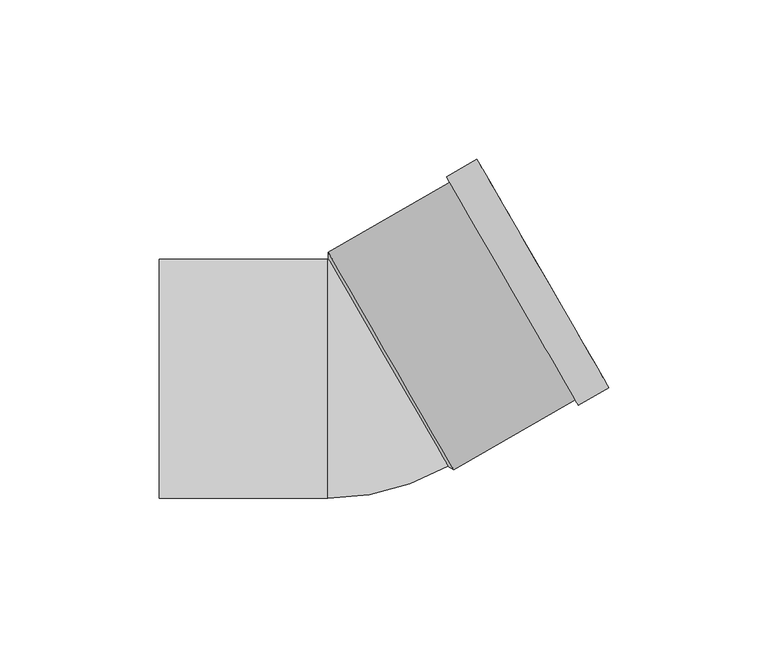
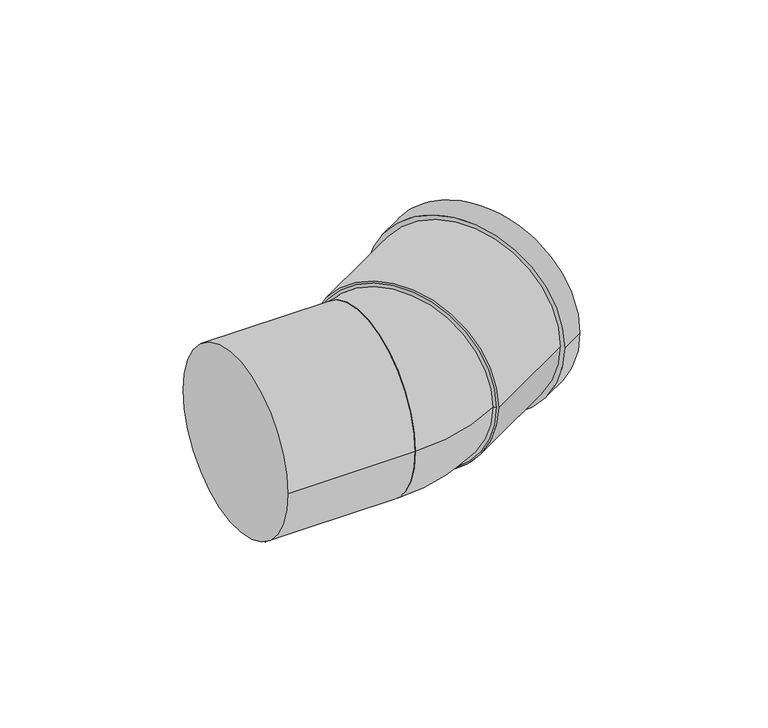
"""IFC4 building model written with IfcOpenShell, lengths in millimetres: pipe fitting geometry, Superdrain HT bend : Superdrain HT Bend."""

from ifc_helpers import new_model, si_unit, point, frame, origin, origin_2d, place, context, project, spatial, polyline, circle_curve, ellipse_curve, trimmed, segment, composite_curve, outline, extrude, source, transform, mapped, element, save
from ifc_brep_helpers import plane_surface, revolved_surface, advanced_brep


def pipe_fitting_1b43bb9a(model_context):
    return source(origin(), model_context, "Body", "SolidModel", [
        advanced_brep(
        [(27.5834591, -27.3759526, 0.0), (-9.9165409, 37.5759526, 0.0), (-10.2, -37.5, 0.0), (-10.2, 37.5, 0.0)],
        [
            (0, 1, circle_curve(frame((8.8334591, 5.1, 0.0), z_axis=(0.8660254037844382, 0.500000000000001, 0.0), x_axis=(-0.500000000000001, 0.8660254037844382, 0.0)), 37.5)),
            (1, 0, circle_curve(frame((8.8334591, 5.1, 0.0), z_axis=(0.8660254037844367, 0.5000000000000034, 0.0), x_axis=(-0.5000000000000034, 0.8660254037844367, 0.0)), 37.5)),
            (2, 3, circle_curve(frame((-10.2, 0.0, 0.0), z_axis=(-1.0, 0.0, 0.0), x_axis=(0.0, 1.0, 0.0)), 37.5)),
            (3, 2, circle_curve(frame((-10.2, 0.0, 0.0), z_axis=(-1.0, 0.0, 0.0), x_axis=(0.0, 1.0, 0.0)), 37.5)),
            (3, 1, circle_curve(frame((-10.2, 38.0669182, 0.0), z_axis=(0.0, 0.0, 1.0), x_axis=(1.0, 0.0, 0.0)), 0.5669182)),
            (0, 2, circle_curve(frame((-10.2, 38.0669182, 0.0), z_axis=(0.0, 0.0, -1.0), x_axis=(1.0, 0.0, 0.0)), 75.5669182)),
        ],
        [
            plane_surface(frame((8.8334591, 5.1, 0.0), z_axis=(0.866025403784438, 0.5000000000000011, 0.0), x_axis=(0.0, 0.0, -1.0))),
            plane_surface(frame((-10.2, 0.0, 0.0), z_axis=(-1.0, 0.0, 0.0), x_axis=(0.0, 0.0, -1.0))),
            revolved_surface(trimmed(ellipse_curve(frame((27.8669182, 38.0669182, 0.0), z_axis=(0.0, -1.0, 0.0), x_axis=(-1.0, 0.0, 0.0)), 37.5, 37.5), [point((-9.6330818, 38.0669182, 0.0))], [point((65.3669182, 38.0669182, 0.0))], True, "CARTESIAN"), (-10.2, 38.0669182, 0.0), (0.0, 0.0, 1.0)),
            revolved_surface(trimmed(ellipse_curve(frame((27.8669182, 38.0669182, 0.0), z_axis=(0.0, -1.0, 0.0), x_axis=(-1.0, 0.0, 0.0)), 37.5, 37.5), [point((65.3669182, 38.0669182, 0.0))], [point((-9.6330818, 38.0669182, 0.0))], True, "CARTESIAN"), (-10.2, 38.0669182, 0.0), (0.0, 0.0, 1.0)),
        ],
        [
            (0, [[1, 2]]),
            (1, [[3, 4]]),
            (2, [[-4, 5, -1, 6]]),
            (3, [[-3, -6, -2, -5]]),
        ],
    ),
        extrude(outline(composite_curve([segment(trimmed(circle_curve(origin_2d(), 39.375), [point((0.0, 39.375))], [point((0.0, -39.375))], False, "CARTESIAN"), True, "CONTINUOUS"), segment(trimmed(circle_curve(origin_2d(), 39.375), [point((0.0, -39.375))], [point((0.0, 39.375))], False, "CARTESIAN"), True, "CONTINUOUS")], self_intersect=False), holes=[composite_curve([segment(trimmed(circle_curve(origin_2d(), 37.5), [point((0.0, 37.5))], [point((0.0, -37.5))], True, "CARTESIAN"), True, "CONTINUOUS"), segment(trimmed(circle_curve(origin_2d(), 37.5), [point((0.0, -37.5))], [point((0.0, 37.5))], True, "CARTESIAN"), True, "CONTINUOUS")], self_intersect=False)]), frame((9.6994845, 5.6, 0.0), z_axis=(0.8660254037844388, 0.4999999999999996, 0.0), x_axis=(0.0, 0.0, 1.0)), (0.0, 0.0, 1.0), 55.0),
        extrude(outline(composite_curve([segment(trimmed(circle_curve(origin_2d(), 41.34375), [point((0.0, -41.34375))], [point((0.0, 41.34375))], False, "CARTESIAN"), True, "CONTINUOUS"), segment(trimmed(circle_curve(origin_2d(), 41.34375), [point((0.0, 41.34375))], [point((0.0, -41.34375))], False, "CARTESIAN"), True, "CONTINUOUS")], self_intersect=False), holes=[composite_curve([segment(trimmed(circle_curve(origin_2d(), 37.5), [point((0.0, -37.5))], [point((0.0, 37.5))], True, "CARTESIAN"), True, "CONTINUOUS"), segment(trimmed(circle_curve(origin_2d(), 37.5), [point((0.0, 37.5))], [point((0.0, -37.5))], True, "CARTESIAN"), True, "CONTINUOUS")], self_intersect=False)]), frame((47.8046023, 27.6, 0.0), z_axis=(0.8660254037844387, 0.49999999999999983, 0.0), x_axis=(0.0, 0.0, 1.0)), (0.0, 0.0, 1.0), 11.0),
        advanced_brep(
        [(29.3869845, -28.4997503, 0.0), (-9.9880155, 39.6997503, 0.0), (27.5834591, -27.3759526, 0.0), (-9.9165409, 37.5759526, 0.0)],
        [
            (0, 1, circle_curve(frame((9.6994845, 5.6, 0.0), z_axis=(0.8660254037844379, 0.5000000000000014, 0.0), x_axis=(0.5000000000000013, -0.8660254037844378, 0.0)), 39.375)),
            (1, 0, circle_curve(frame((9.6994845, 5.6, 0.0), z_axis=(0.8660254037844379, 0.5000000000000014, 0.0), x_axis=(-0.5000000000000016, 0.8660254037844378, 0.0)), 39.375)),
            (2, 3, circle_curve(frame((8.8334591, 5.1, 0.0), z_axis=(-0.8660254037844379, -0.5000000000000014, 0.0), x_axis=(-0.5000000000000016, 0.8660254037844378, 0.0)), 37.5)),
            (3, 2, circle_curve(frame((8.8334591, 5.1, 0.0), z_axis=(-0.8660254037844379, -0.5000000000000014, 0.0), x_axis=(0.5000000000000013, -0.8660254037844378, 0.0)), 37.5)),
            (3, 1),
            (0, 2),
        ],
        [
            plane_surface(frame((9.6994845, 5.6, 0.0), z_axis=(0.8660254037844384, 0.5000000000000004, 0.0), x_axis=(0.0, 0.0, -1.0))),
            plane_surface(frame((8.8334591, 5.1, 0.0), z_axis=(-0.8660254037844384, -0.5000000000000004, 0.0), x_axis=(0.0, 0.0, -1.0))),
            revolved_surface(polyline([(-9.916540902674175, 37.5759526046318, 0.0), (-9.9880155, 39.6997503, 0.0)]), (-8.487049, -4.9, 0.0), (0.8660254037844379, 0.5000000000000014, 0.0)),
            revolved_surface(polyline([(27.583459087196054, -27.375952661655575, 0.0), (29.386984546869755, -28.499750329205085, 0.0)]), (-8.487049, -4.9, 0.0), (0.8660254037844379, 0.5000000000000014, 0.0)),
        ],
        [
            (0, [[1, 2]]),
            (1, [[3, 4]]),
            (2, [[-4, 5, -1, 6]]),
            (3, [[-3, -6, -2, -5]]),
        ],
    ),
        extrude(outline(composite_curve([segment(trimmed(circle_curve(origin_2d(), 37.5), [point((-37.5, 0.0))], [point((37.5, 0.0))], False, "CARTESIAN"), True, "CONTINUOUS"), segment(trimmed(circle_curve(origin_2d(), 37.5), [point((37.5, 0.0))], [point((-37.5, 0.0))], False, "CARTESIAN"), True, "CONTINUOUS")], self_intersect=False)), frame((-63.0, 0.0, 0.0), z_axis=(1.0, 0.0, 0.0), x_axis=(0.0, 1.0, 0.0)), (0.0, 0.0, 1.0), 52.8),
    ])


if __name__ == "__main__":
    model = new_model("IFC4")
    model_context = context("Model", 3, world=origin())
    ifc_project = project(units=[si_unit("LENGTHUNIT", "METRE", prefix="MILLI")], contexts=[model_context])
    site = spatial("IfcSite", under=ifc_project)
    building = spatial("IfcBuilding", under=site)
    placement = place(None, origin())
    pipe_fitting_shape = pipe_fitting_1b43bb9a(model_context)
    element("IfcPipeFitting", 1, ObjectType="Superdrain HT bend : Superdrain HT Bend", at=placement, inside=building, context=model_context, shape_type="MappedRepresentation", body=[
        mapped(pipe_fitting_shape, transform((0.0, 0.0, 0.0), x_axis=(1.0, 0.0, 0.0), y_axis=(0.0, 1.0, 0.0), z_axis=(0.0, 0.0, 1.0))),
    ])
    save(model, "model.ifc")
